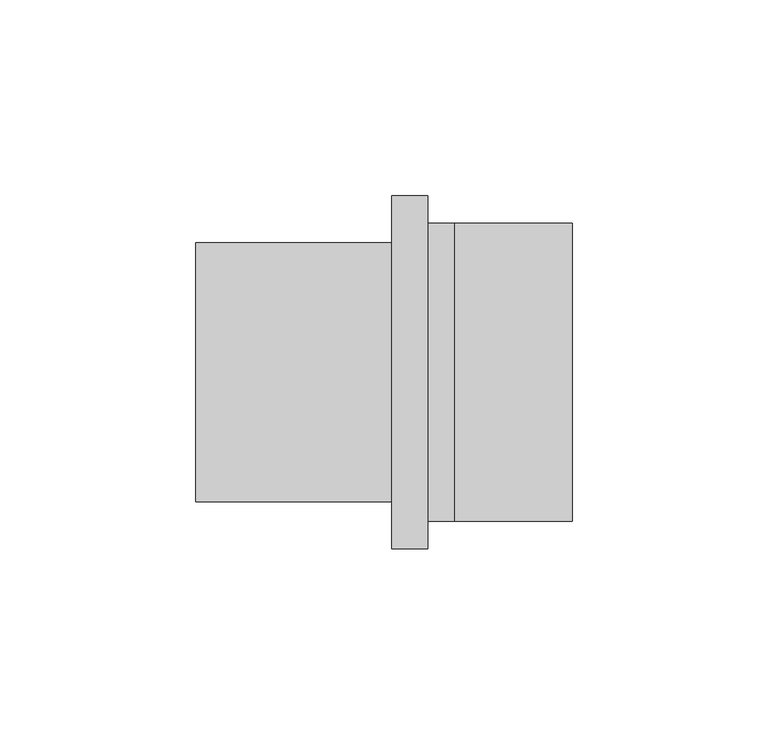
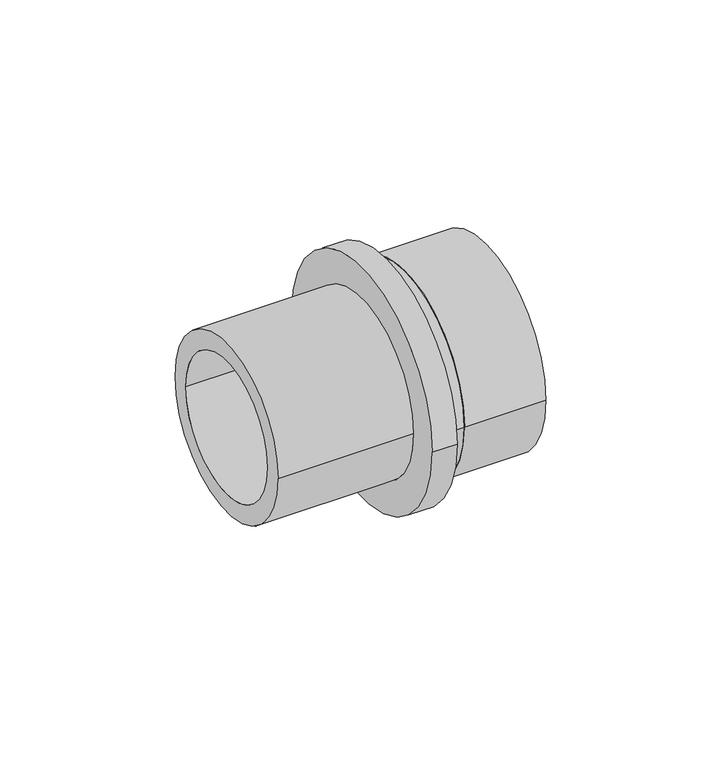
"""IFC4 building model written with IfcOpenShell, lengths in millimetres: pipe fitting geometry, Adapter with welding end : A welding RX."""

from ifc_helpers import new_model, si_unit, point, frame, origin, origin_2d, place, context, project, spatial, polyline, circle_curve, trimmed, segment, composite_curve, outline, extrude, source, transform, mapped, element, save
from ifc_brep_helpers import plane_surface, cylinder_surface, revolved_surface, advanced_brep


def pipe_fitting_1cbe8aa9(model_context):
    return source(origin(), model_context, "Body", "SolidModel", [
        extrude(outline(composite_curve([segment(trimmed(circle_curve(origin_2d(), 38.0), [point((-38.0, 0.0))], [point((38.0, 0.0))], False, "CARTESIAN"), True, "CONTINUOUS"), segment(trimmed(circle_curve(origin_2d(), 38.0), [point((38.0, 0.0))], [point((-38.0, 0.0))], False, "CARTESIAN"), True, "CONTINUOUS")], self_intersect=False), holes=[composite_curve([segment(trimmed(circle_curve(origin_2d(), 34.95), [point((34.95, 0.0))], [point((-34.95, 0.0))], True, "CARTESIAN"), True, "CONTINUOUS"), segment(trimmed(circle_curve(origin_2d(), 34.95), [point((-34.95, 0.0))], [point((34.95, 0.0))], True, "CARTESIAN"), True, "CONTINUOUS")], self_intersect=False)]), frame((0.0, 0.0, 0.0), z_axis=(1.0, 0.0, 0.0), x_axis=(0.0, 1.0, 0.0)), (0.0, 0.0, 1.0), 30.0),
        advanced_brep(
        [(0.0, 38.0, 0.0), (0.0, -38.0, 0.0), (-6.8, -38.0, 0.0), (-6.8, 38.0, 0.0), (-6.8, 34.95, 0.0), (-6.8, -34.95, 0.0), (0.0, -34.95, 0.0), (0.0, 34.95, 0.0), (-66.0, 26.0, 0.0), (-66.0, -26.0, 0.0), (-6.8, -26.0, 0.0), (-6.8, 26.0, 0.0), (-16.0, 33.0, 0.0), (-16.0, -33.0, 0.0), (-66.0, -33.0, 0.0), (-66.0, 33.0, 0.0), (-6.8, 45.0, 0.0), (-6.8, -45.0, 0.0), (-16.0, -45.0, 0.0), (-16.0, 45.0, 0.0)],
        [
            (0, 1, circle_curve(frame((0.0, 0.0, 0.0), z_axis=(-1.0, 0.0, 0.0), x_axis=(0.0, -1.0, 0.0)), 38.0)),
            (1, 2),
            (2, 3, circle_curve(frame((-6.8, 0.0, 0.0), z_axis=(1.0, 0.0, 0.0), x_axis=(0.0, -1.0, 0.0)), 38.0)),
            (3, 0),
            (4, 5, circle_curve(frame((-6.8, 0.0, 0.0), z_axis=(-1.0, 0.0, 0.0), x_axis=(0.0, -1.0, 0.0)), 34.95)),
            (5, 6),
            (6, 7, circle_curve(frame((0.0, 0.0, 0.0), z_axis=(1.0, 0.0, 0.0), x_axis=(0.0, -1.0, 0.0)), 34.95)),
            (7, 4),
            (8, 9, circle_curve(frame((-66.0, 0.0, 0.0), z_axis=(-1.0, 0.0, 0.0), x_axis=(0.0, -1.0, 0.0)), 26.0)),
            (9, 10),
            (10, 11, circle_curve(frame((-6.8, 0.0, 0.0), z_axis=(1.0, 0.0, 0.0), x_axis=(0.0, -1.0, 0.0)), 26.0)),
            (11, 8),
            (12, 13, circle_curve(frame((-16.0, 0.0, 0.0), z_axis=(-1.0, 0.0, 0.0), x_axis=(0.0, -1.0, 0.0)), 33.0)),
            (13, 14),
            (14, 15, circle_curve(frame((-66.0, 0.0, 0.0), z_axis=(1.0, 0.0, 0.0), x_axis=(0.0, -1.0, 0.0)), 33.0)),
            (15, 12),
            (16, 17, circle_curve(frame((-6.8, 0.0, 0.0), z_axis=(-1.0, 0.0, 0.0), x_axis=(0.0, -1.0, 0.0)), 45.0)),
            (17, 18),
            (18, 19, circle_curve(frame((-16.0, 0.0, 0.0), z_axis=(1.0, 0.0, 0.0), x_axis=(0.0, -1.0, 0.0)), 45.0)),
            (19, 16),
            (16, 17, circle_curve(frame((-6.8, 0.0, 0.0), z_axis=(1.0, 0.0, 0.0), x_axis=(0.0, 1.0, 0.0)), 45.0)),
            (2, 3, circle_curve(frame((-6.8, 0.0, 0.0), z_axis=(-1.0, 0.0, 0.0), x_axis=(0.0, 1.0, 0.0)), 38.0)),
            (1, 0, circle_curve(frame((0.0, 0.0, 0.0), z_axis=(-1.0, 0.0, 0.0), x_axis=(0.0, 1.0, 0.0)), 38.0)),
            (6, 7, circle_curve(frame((0.0, 0.0, 0.0), z_axis=(-1.0, 0.0, 0.0), x_axis=(0.0, 1.0, 0.0)), 34.95)),
            (5, 4, circle_curve(frame((-6.8, 0.0, 0.0), z_axis=(-1.0, 0.0, 0.0), x_axis=(0.0, 1.0, 0.0)), 34.95)),
            (10, 11, circle_curve(frame((-6.8, 0.0, 0.0), z_axis=(-1.0, 0.0, 0.0), x_axis=(0.0, 1.0, 0.0)), 26.0)),
            (9, 8, circle_curve(frame((-66.0, 0.0, 0.0), z_axis=(-1.0, 0.0, 0.0), x_axis=(0.0, 1.0, 0.0)), 26.0)),
            (14, 15, circle_curve(frame((-66.0, 0.0, 0.0), z_axis=(-1.0, 0.0, 0.0), x_axis=(0.0, 1.0, 0.0)), 33.0)),
            (13, 12, circle_curve(frame((-16.0, 0.0, 0.0), z_axis=(-1.0, 0.0, 0.0), x_axis=(0.0, 1.0, 0.0)), 33.0)),
            (18, 19, circle_curve(frame((-16.0, 0.0, 0.0), z_axis=(-1.0, 0.0, 0.0), x_axis=(0.0, 1.0, 0.0)), 45.0)),
        ],
        [
            cylinder_surface(frame((0.0, 0.0, 0.0), z_axis=(1.0, 0.0, 0.0), x_axis=(0.0, -1.0, 0.0)), 38.0),
            revolved_surface(polyline([(0.0, -34.95, 0.0), (-6.8, -34.95, 0.0)]), (0.0, 0.0, 0.0), (1.0, 0.0, 0.0)),
            revolved_surface(polyline([(-6.8, -26.0, 0.0), (-66.0, -26.0, 0.0)]), (0.0, 0.0, 0.0), (1.0, 0.0, 0.0)),
            cylinder_surface(frame((0.0, 0.0, 0.0), z_axis=(1.0, 0.0, 0.0), x_axis=(0.0, -1.0, 0.0)), 33.0),
            cylinder_surface(frame((0.0, 0.0, 0.0), z_axis=(1.0, 0.0, 0.0), x_axis=(0.0, -1.0, 0.0)), 45.0),
            plane_surface(frame((-6.8, 0.0, 0.0), z_axis=(1.0, 0.0, 0.0), x_axis=(0.0, 1.0, 0.0))),
            cylinder_surface(frame((0.0, 0.0, 0.0), z_axis=(1.0, 0.0, 0.0), x_axis=(0.0, 1.0, 0.0)), 38.0),
            plane_surface(frame((0.0, 0.0, 0.0), z_axis=(1.0, 0.0, 0.0), x_axis=(0.0, 1.0, 0.0))),
            revolved_surface(polyline([(0.0, 34.95, 0.0), (-6.8, 34.95, 0.0)]), (0.0, 0.0, 0.0), (1.0, 0.0, 0.0)),
            revolved_surface(polyline([(-6.8, 26.0, 0.0), (-66.0, 26.0, 0.0)]), (0.0, 0.0, 0.0), (1.0, 0.0, 0.0)),
            plane_surface(frame((-66.0, 0.0, 0.0), z_axis=(-1.0, 0.0, 0.0), x_axis=(0.0, 1.0, 0.0))),
            cylinder_surface(frame((0.0, 0.0, 0.0), z_axis=(1.0, 0.0, 0.0), x_axis=(0.0, 1.0, 0.0)), 33.0),
            plane_surface(frame((-16.0, 0.0, 0.0), z_axis=(-1.0, 0.0, 0.0), x_axis=(0.0, 1.0, 0.0))),
            cylinder_surface(frame((0.0, 0.0, 0.0), z_axis=(1.0, 0.0, 0.0), x_axis=(0.0, 1.0, 0.0)), 45.0),
        ],
        [
            (0, [[1, 2, 3, 4]]),
            (1, [[5, 6, 7, 8]]),
            (2, [[9, 10, 11, 12]]),
            (3, [[13, 14, 15, 16]]),
            (4, [[17, 18, 19, 20]]),
            (5, [[21, -17], [22, -3]]),
            (6, [[23, -4, -22, -2]]),
            (7, [[-23, -1], [24, -7]]),
            (8, [[25, -8, -24, -6]]),
            (5, [[-25, -5], [26, -11]]),
            (9, [[27, -12, -26, -10]]),
            (10, [[28, -15], [-27, -9]]),
            (11, [[29, -16, -28, -14]]),
            (12, [[30, -19], [-29, -13]]),
            (13, [[-21, -20, -30, -18]]),
        ],
    ),
    ])


if __name__ == "__main__":
    model = new_model("IFC4")
    model_context = context("Model", 3, world=origin())
    ifc_project = project(units=[si_unit("LENGTHUNIT", "METRE", prefix="MILLI")], contexts=[model_context])
    site = spatial("IfcSite", under=ifc_project)
    building = spatial("IfcBuilding", under=site)
    placement = place(None, origin())
    pipe_fitting_shape = pipe_fitting_1cbe8aa9(model_context)
    element("IfcPipeFitting", 1, ObjectType="Adapter with welding end : A welding RX", at=placement, inside=building, context=model_context, shape_type="MappedRepresentation", body=[
        mapped(pipe_fitting_shape, transform((0.0, 0.0, 0.0), x_axis=(1.0, 0.0, 0.0), y_axis=(0.0, 1.0, 0.0), z_axis=(0.0, 0.0, 1.0))),
    ])
    save(model, "model.ifc")
